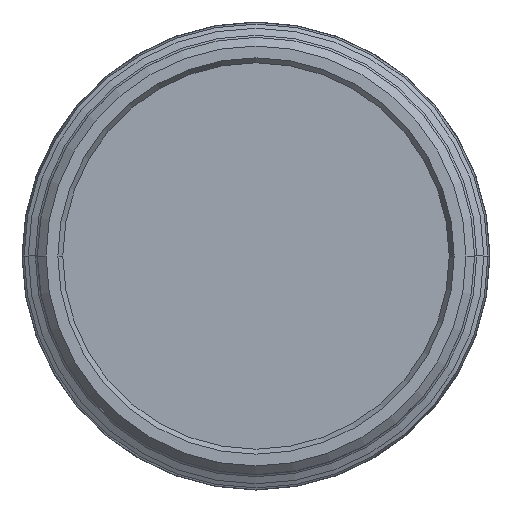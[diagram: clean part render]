
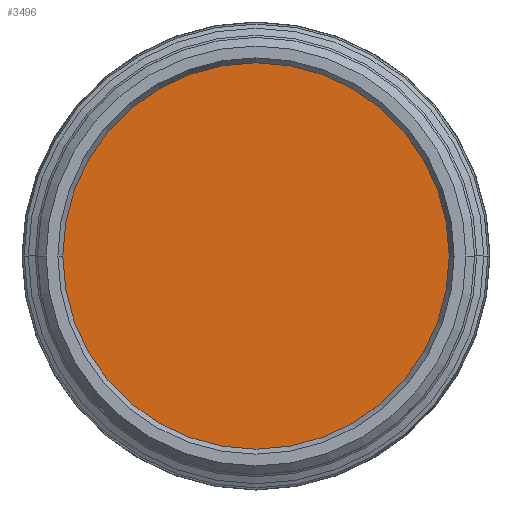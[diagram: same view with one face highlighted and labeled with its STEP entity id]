
A CAD part, front view. The second image highlights one B-rep face of the part: STEP entity #3496.
In plain terms, the highlighted planar face has unit normal (0, -1, 0).
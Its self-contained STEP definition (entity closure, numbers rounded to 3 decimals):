
#1508=CARTESIAN_POINT('',(0.,10.,0.));
#1509=DIRECTION('',(0.,-1.,0.));
#1510=DIRECTION('',(-1.,0.,0.));
#1511=AXIS2_PLACEMENT_3D('',#1508,#1509,#1510);
#1530=CARTESIAN_POINT('',(0.,10.,0.));
#1531=DIRECTION('',(0.,-1.,0.));
#1532=DIRECTION('',(1.,0.,0.));
#1533=AXIS2_PLACEMENT_3D('',#1530,#1531,#1532);
#1814=CARTESIAN_POINT('',(45.,10.,0.));
#1815=CARTESIAN_POINT('',(-45.,10.,0.));
#1816=VERTEX_POINT('',#1814);
#1817=VERTEX_POINT('',#1815);
#3486=CARTESIAN_POINT('',(0.,10.,0.));
#3487=DIRECTION('',(0.,-1.,0.));
#3488=DIRECTION('',(1.,0.,0.));
#3489=AXIS2_PLACEMENT_3D('',#3486,#3487,#3488);
#3490=PLANE('',#3489);
#3492=ORIENTED_EDGE('',*,*,#3491,.F.);
#3493=ORIENTED_EDGE('',*,*,#3476,.F.);
#3494=EDGE_LOOP('',(#3492,#3493));
#3495=FACE_OUTER_BOUND('',#3494,.F.);
#1512=CIRCLE('',#1511,45.);
#1534=CIRCLE('',#1533,45.);
#3476=EDGE_CURVE('',#1817,#1816,#1512,.T.);
#3491=EDGE_CURVE('',#1816,#1817,#1534,.T.);
#3496=ADVANCED_FACE('',(#3495),#3490,.T.);
